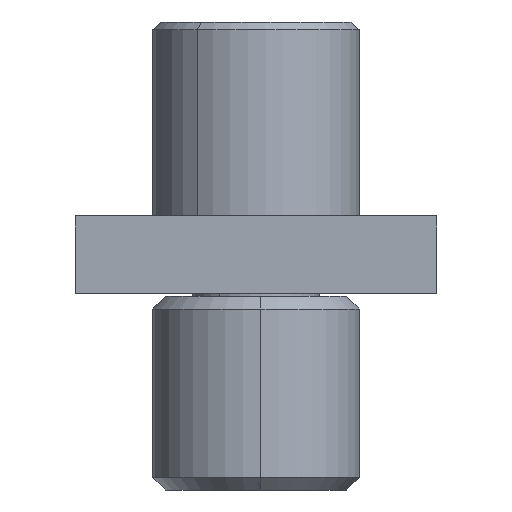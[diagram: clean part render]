
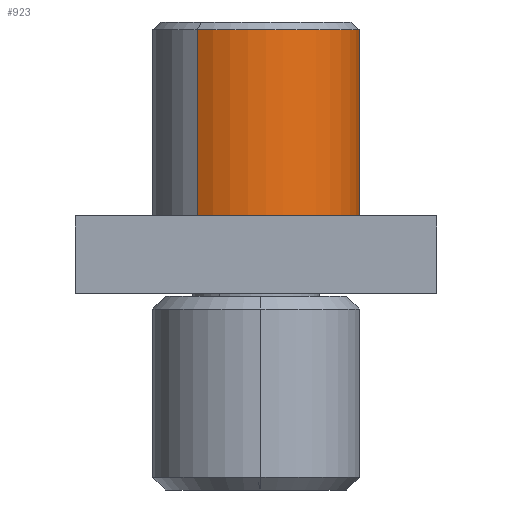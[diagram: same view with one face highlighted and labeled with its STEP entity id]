
A CAD part, left-side view. The second image highlights one B-rep face of the part: STEP entity #923.
In plain terms, the highlighted cylindrical face has radius 4 mm (diameter 8 mm), a partial arc.
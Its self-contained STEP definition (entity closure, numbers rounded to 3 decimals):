
#10 = CARTESIAN_POINT ( 'NONE',  ( 0., 4., -0.3 ) ) ;
#39 = VECTOR ( 'NONE', #594, 1000. ) ;
#78 = VECTOR ( 'NONE', #175, 1000. ) ;
#79 = EDGE_CURVE ( 'NONE', #616, #879, #1225, .T. ) ;
#103 = CIRCLE ( 'NONE', #1325, 4. ) ;
#144 = CIRCLE ( 'NONE', #747, 4. ) ;
#162 = CARTESIAN_POINT ( 'NONE',  ( 0., -4., -18.1 ) ) ;
#175 = DIRECTION ( 'NONE',  ( 0., 0., -1. ) ) ;
#186 = DIRECTION ( 'NONE',  ( 0., 0., -1. ) ) ;
#195 = CARTESIAN_POINT ( 'NONE',  ( 0., 0., -0.3 ) ) ;
#299 = LINE ( 'NONE', #162, #78 ) ;
#454 = AXIS2_PLACEMENT_3D ( 'NONE', #598, #498, #1272 ) ;
#498 = DIRECTION ( 'NONE',  ( 0., 0., -1. ) ) ;
#506 = ORIENTED_EDGE ( 'NONE', *, *, #513, .F. ) ;
#513 = EDGE_CURVE ( 'NONE', #959, #935, #299, .T. ) ;
#526 = ORIENTED_EDGE ( 'NONE', *, *, #873, .F. ) ;
#594 = DIRECTION ( 'NONE',  ( 0., 0., -1. ) ) ;
#598 = CARTESIAN_POINT ( 'NONE',  ( 0., 0., -18.1 ) ) ;
#616 = VERTEX_POINT ( 'NONE', #10 ) ;
#638 = DIRECTION ( 'NONE',  ( 0., 0., -1. ) ) ;
#743 = ORIENTED_EDGE ( 'NONE', *, *, #79, .T. ) ;
#747 = AXIS2_PLACEMENT_3D ( 'NONE', #195, #638, #1218 ) ;
#781 = CARTESIAN_POINT ( 'NONE',  ( 0., -4., -7.5 ) ) ;
#789 = DIRECTION ( 'NONE',  ( 0., 1., 0. ) ) ;
#795 = CYLINDRICAL_SURFACE ( 'NONE', #454, 4. ) ;
#873 = EDGE_CURVE ( 'NONE', #935, #879, #103, .T. ) ;
#879 = VERTEX_POINT ( 'NONE', #1279 ) ;
#883 = CARTESIAN_POINT ( 'NONE',  ( 0., 0., -7.5 ) ) ;
#923 = ADVANCED_FACE ( 'NONE', ( #1087 ), #795, .T. ) ;
#935 = VERTEX_POINT ( 'NONE', #781 ) ;
#940 = EDGE_LOOP ( 'NONE', ( #506, #1014, #743, #526 ) ) ;
#959 = VERTEX_POINT ( 'NONE', #1075 ) ;
#1014 = ORIENTED_EDGE ( 'NONE', *, *, #1223, .T. ) ;
#1075 = CARTESIAN_POINT ( 'NONE',  ( 0., -4., -0.3 ) ) ;
#1087 = FACE_OUTER_BOUND ( 'NONE', #940, .T. ) ;
#1218 = DIRECTION ( 'NONE',  ( 0., 1., 0. ) ) ;
#1223 = EDGE_CURVE ( 'NONE', #959, #616, #144, .T. ) ;
#1225 = LINE ( 'NONE', #1262, #39 ) ;
#1262 = CARTESIAN_POINT ( 'NONE',  ( 0., 4., -18.1 ) ) ;
#1272 = DIRECTION ( 'NONE',  ( 0., 1., 0. ) ) ;
#1279 = CARTESIAN_POINT ( 'NONE',  ( 0., 4., -7.5 ) ) ;
#1325 = AXIS2_PLACEMENT_3D ( 'NONE', #883, #186, #789 ) ;
